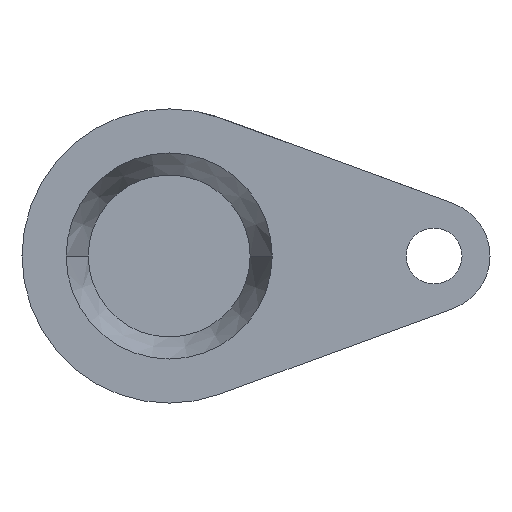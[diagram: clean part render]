
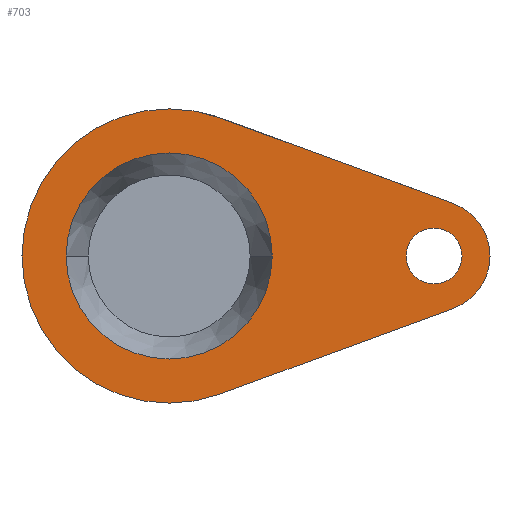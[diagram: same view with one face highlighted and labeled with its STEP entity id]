
A CAD part, front view. The second image highlights one B-rep face of the part: STEP entity #703.
In plain terms, the highlighted planar face has unit normal (0, -1, 0).
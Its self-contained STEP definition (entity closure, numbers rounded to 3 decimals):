
#29 = DIRECTION ( 'NONE',  ( 0., 1., 0. ) ) ;
#64 = EDGE_LOOP ( 'NONE', ( #255, #3422 ) ) ;
#66 = DIRECTION ( 'NONE',  ( 0., 1., 0. ) ) ;
#75 = AXIS2_PLACEMENT_3D ( 'NONE', #4364, #3623, #252 ) ;
#89 = AXIS2_PLACEMENT_3D ( 'NONE', #3460, #1592, #3086 ) ;
#117 = ORIENTED_EDGE ( 'NONE', *, *, #1832, .F. ) ;
#153 = EDGE_CURVE ( 'NONE', #775, #1784, #3013, .T. ) ;
#252 = DIRECTION ( 'NONE',  ( -1., 0., 0. ) ) ;
#255 = ORIENTED_EDGE ( 'NONE', *, *, #1782, .T. ) ;
#258 = VERTEX_POINT ( 'NONE', #4642 ) ;
#348 = EDGE_CURVE ( 'NONE', #3619, #2132, #454, .T. ) ;
#454 = LINE ( 'NONE', #3076, #809 ) ;
#683 = AXIS2_PLACEMENT_3D ( 'NONE', #4612, #66, #1578 ) ;
#703 = ADVANCED_FACE ( 'NONE', ( #3047, #4564, #1176 ), #2158, .T. ) ;
#775 = VERTEX_POINT ( 'NONE', #2894 ) ;
#785 = CIRCLE ( 'NONE', #75, 35. ) ;
#795 = LINE ( 'NONE', #2647, #1743 ) ;
#809 = VECTOR ( 'NONE', #4594, 1000. ) ;
#885 = AXIS2_PLACEMENT_3D ( 'NONE', #4520, #29, #1069 ) ;
#966 = ORIENTED_EDGE ( 'NONE', *, *, #3804, .T. ) ;
#1000 = AXIS2_PLACEMENT_3D ( 'NONE', #4056, #3611, #2895 ) ;
#1012 = CARTESIAN_POINT ( 'NONE',  ( 109., -33., 0. ) ) ;
#1022 = AXIS2_PLACEMENT_3D ( 'NONE', #4454, #3633, #4407 ) ;
#1057 = ORIENTED_EDGE ( 'NONE', *, *, #1122, .T. ) ;
#1069 = DIRECTION ( 'NONE',  ( -1., 0., 0. ) ) ;
#1075 = ORIENTED_EDGE ( 'NONE', *, *, #2346, .F. ) ;
#1122 = EDGE_CURVE ( 'NONE', #3450, #3144, #785, .T. ) ;
#1176 = FACE_OUTER_BOUND ( 'NONE', #3626, .T. ) ;
#1248 = DIRECTION ( 'NONE',  ( 0., 1., 0. ) ) ;
#1309 = CIRCLE ( 'NONE', #1000, 19. ) ;
#1349 = CIRCLE ( 'NONE', #89, 50. ) ;
#1390 = CARTESIAN_POINT ( 'NONE',  ( 96.544, -33., -17.837 ) ) ;
#1578 = DIRECTION ( 'NONE',  ( -1., 0., 0. ) ) ;
#1592 = DIRECTION ( 'NONE',  ( 0., -1., 0. ) ) ;
#1743 = VECTOR ( 'NONE', #2689, 1000. ) ;
#1782 = EDGE_CURVE ( 'NONE', #1784, #775, #4136, .T. ) ;
#1784 = VERTEX_POINT ( 'NONE', #3068 ) ;
#1832 = EDGE_CURVE ( 'NONE', #3427, #3293, #3263, .T. ) ;
#1938 = DIRECTION ( 'NONE',  ( -1., 0., 0. ) ) ;
#2097 = ORIENTED_EDGE ( 'NONE', *, *, #2990, .T. ) ;
#2132 = VERTEX_POINT ( 'NONE', #3484 ) ;
#2158 = PLANE ( 'NONE',  #1022 ) ;
#2281 = CARTESIAN_POINT ( 'NONE',  ( 0., -33., 0. ) ) ;
#2346 = EDGE_CURVE ( 'NONE', #2132, #3427, #1309, .T. ) ;
#2647 = CARTESIAN_POINT ( 'NONE',  ( 17.222, -33., -46.94 ) ) ;
#2689 = DIRECTION ( 'NONE',  ( -0.939, 0., -0.344 ) ) ;
#2733 = CARTESIAN_POINT ( 'NONE',  ( -35., -33., 0. ) ) ;
#2894 = CARTESIAN_POINT ( 'NONE',  ( 99.5, -33., 0. ) ) ;
#2895 = DIRECTION ( 'NONE',  ( -1., 0., 0. ) ) ;
#2990 = EDGE_CURVE ( 'NONE', #3144, #3450, #3276, .T. ) ;
#3013 = CIRCLE ( 'NONE', #885, 9.5 ) ;
#3047 = FACE_BOUND ( 'NONE', #4377, .T. ) ;
#3068 = CARTESIAN_POINT ( 'NONE',  ( 80.5, -33., 0. ) ) ;
#3076 = CARTESIAN_POINT ( 'NONE',  ( 17.222, -33., 46.94 ) ) ;
#3086 = DIRECTION ( 'NONE',  ( 1., 0., 0. ) ) ;
#3116 = AXIS2_PLACEMENT_3D ( 'NONE', #2281, #3410, #1938 ) ;
#3144 = VERTEX_POINT ( 'NONE', #3927 ) ;
#3233 = ORIENTED_EDGE ( 'NONE', *, *, #4188, .F. ) ;
#3263 = CIRCLE ( 'NONE', #4775, 19. ) ;
#3276 = CIRCLE ( 'NONE', #3116, 35. ) ;
#3293 = VERTEX_POINT ( 'NONE', #1390 ) ;
#3410 = DIRECTION ( 'NONE',  ( 0., 1., 0. ) ) ;
#3422 = ORIENTED_EDGE ( 'NONE', *, *, #153, .T. ) ;
#3427 = VERTEX_POINT ( 'NONE', #1012 ) ;
#3450 = VERTEX_POINT ( 'NONE', #2733 ) ;
#3460 = CARTESIAN_POINT ( 'NONE',  ( 0., -33., 0. ) ) ;
#3484 = CARTESIAN_POINT ( 'NONE',  ( 96.544, -33., 17.837 ) ) ;
#3611 = DIRECTION ( 'NONE',  ( 0., 1., 0. ) ) ;
#3619 = VERTEX_POINT ( 'NONE', #4360 ) ;
#3623 = DIRECTION ( 'NONE',  ( 0., 1., 0. ) ) ;
#3626 = EDGE_LOOP ( 'NONE', ( #966, #3233, #117, #1075, #4356 ) ) ;
#3633 = DIRECTION ( 'NONE',  ( 0., -1., 0. ) ) ;
#3804 = EDGE_CURVE ( 'NONE', #3619, #258, #1349, .T. ) ;
#3927 = CARTESIAN_POINT ( 'NONE',  ( 35., -33., 0. ) ) ;
#4056 = CARTESIAN_POINT ( 'NONE',  ( 90., -33., 0. ) ) ;
#4136 = CIRCLE ( 'NONE', #683, 9.5 ) ;
#4188 = EDGE_CURVE ( 'NONE', #3293, #258, #795, .T. ) ;
#4356 = ORIENTED_EDGE ( 'NONE', *, *, #348, .F. ) ;
#4360 = CARTESIAN_POINT ( 'NONE',  ( 17.222, -33., 46.94 ) ) ;
#4364 = CARTESIAN_POINT ( 'NONE',  ( 0., -33., 0. ) ) ;
#4377 = EDGE_LOOP ( 'NONE', ( #2097, #1057 ) ) ;
#4407 = DIRECTION ( 'NONE',  ( 1., 0., 0. ) ) ;
#4454 = CARTESIAN_POINT ( 'NONE',  ( 50., -33., 0. ) ) ;
#4520 = CARTESIAN_POINT ( 'NONE',  ( 90., -33., 0. ) ) ;
#4564 = FACE_BOUND ( 'NONE', #64, .T. ) ;
#4585 = CARTESIAN_POINT ( 'NONE',  ( 90., -33., 0. ) ) ;
#4594 = DIRECTION ( 'NONE',  ( 0.939, 0., -0.344 ) ) ;
#4612 = CARTESIAN_POINT ( 'NONE',  ( 90., -33., 0. ) ) ;
#4642 = CARTESIAN_POINT ( 'NONE',  ( 17.222, -33., -46.94 ) ) ;
#4707 = DIRECTION ( 'NONE',  ( -1., 0., 0. ) ) ;
#4775 = AXIS2_PLACEMENT_3D ( 'NONE', #4585, #1248, #4707 ) ;
